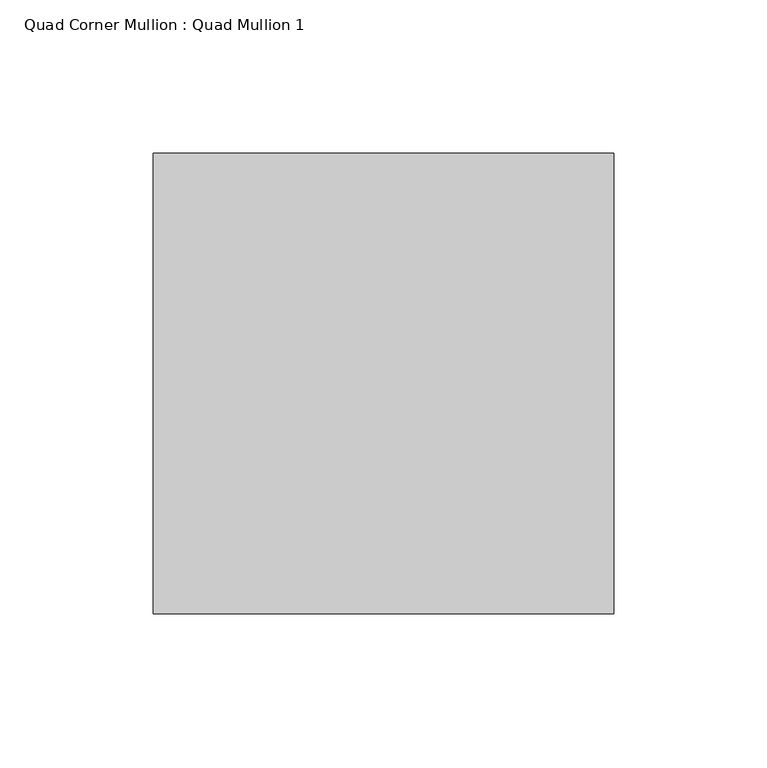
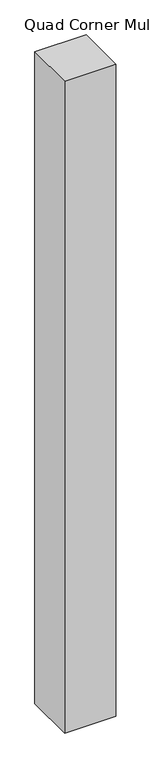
"""IFC4 building model written with IfcOpenShell, lengths in millimetres: member geometry, Quad Corner Mullion : Quad Mullion 1."""

from ifc_helpers import new_model, si_unit, frame, origin, place, context, project, spatial, polyline, outline, extrude, source, transform, mapped, element, save


def quad_corner_mullion_quad_mullion_1_d4d7d3a7(model_context):
    return source(origin(), model_context, "Body", "SweptSolid", [
        extrude(outline(polyline([(75.0, 75.0), (75.0, -75.0), (-75.0, -75.0), (-75.0, 75.0), (75.0, 75.0)])), frame((0.0, 0.0, -2015.2), z_axis=(0.0, 0.0, 1.0), x_axis=(1.0, 0.0, 0.0)), (0.0, 0.0, 1.0), 2015.2),
    ])


if __name__ == "__main__":
    model = new_model("IFC4")
    model_context = context("Model", 3, world=origin())
    ifc_project = project(units=[si_unit("LENGTHUNIT", "METRE", prefix="MILLI")], contexts=[model_context])
    site = spatial("IfcSite", under=ifc_project)
    building = spatial("IfcBuilding", under=site)
    placement = place(None, origin())
    quad_corner_mullion_quad_mullion_1_shape = quad_corner_mullion_quad_mullion_1_d4d7d3a7(model_context)
    element("IfcMember", 1, ObjectType="Quad Corner Mullion : Quad Mullion 1", at=placement, inside=building, context=model_context, shape_type="MappedRepresentation", body=[
        mapped(quad_corner_mullion_quad_mullion_1_shape, transform((0.0, 0.0, 0.0), x_axis=(1.0, 0.0, 0.0), y_axis=(0.0, 1.0, 0.0), z_axis=(0.0, 0.0, 1.0))),
    ])
    save(model, "model.ifc")
